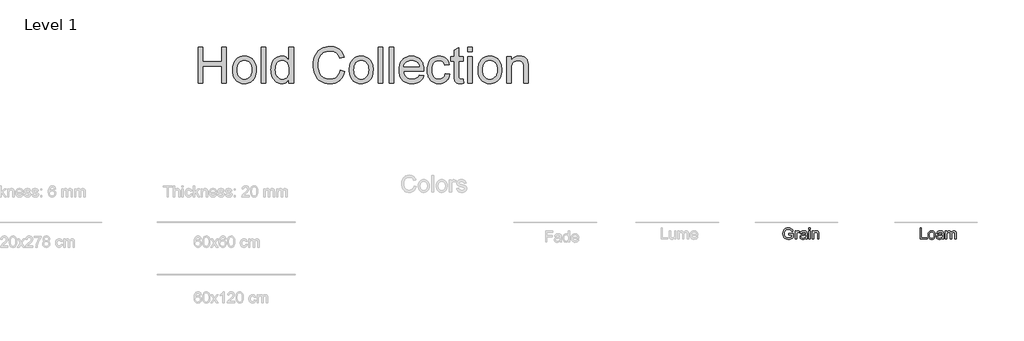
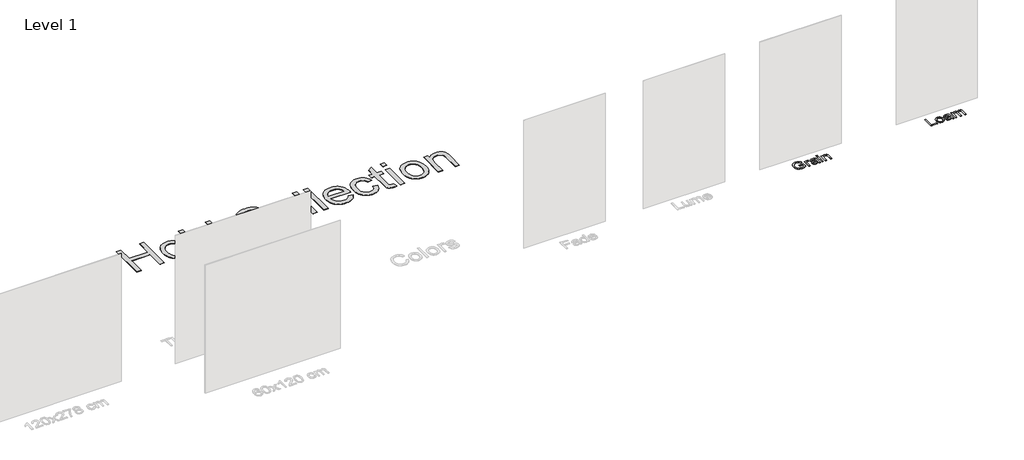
# One storey, part 7 of 7: 3 proxies.
"""IFC4 building model written with IfcOpenShell, lengths in millimetres."""

from ifc_helpers import new_model, si_unit, origin, origin_with_axes, place, context, project, spatial, polyline, outline, extrude, element, save

model = new_model("IFC4")

# Units and contexts
model_context = context("Model", 3, world=origin())
ifc_project = project(units=[si_unit("LENGTHUNIT", "METRE", prefix="MILLI")], contexts=[model_context])

# Site, building, storey
site = spatial("IfcSite", under=ifc_project)
building = spatial("IfcBuilding", under=site)
storey = spatial("IfcBuildingStorey", under=building, Name="Level 1", Elevation=0.0)

# Proxies
placement = place(None, origin())
element("IfcBuildingElementProxy", 1, Name="1000mm Arial", ObjectType="1000mm Arial", at=placement, inside=storey, context=model_context, shape_type="SweptSolid", body=[
    extrude(outline(polyline([(-960.6024091, 15746.8260502), (-960.6024091, 17052.7580821), (-797.3609051, 17052.7580821), (-797.3609051, 16522.2231942), (-103.5845131, 16522.2231942), (-103.5845131, 17052.7580821), (59.6569909, 17052.7580821), (59.6569909, 15746.8260502), (-103.5845131, 15746.8260502), (-103.5845131, 16358.9816902), (-797.3609051, 16358.9816902), (-797.3609051, 15746.8260502), (-960.6024091, 15746.8260502)])), origin_with_axes(), (0.0, 0.0, 1.0), 5.0),
    extrude(outline(polyline([(284.1140589, 16226.3479682), (286.3209677, 16290.597409), (292.9416939, 16350.5525939), (303.9762377, 16406.213523), (319.4245991, 16457.5801962), (339.2867779, 16504.6526136), (363.5627743, 16547.430775), (392.2525882, 16585.9146806), (425.3562196, 16620.1043303), (455.655134, 16644.9880984), (487.5681306, 16666.5540308), (521.0952096, 16684.8021273), (556.2363707, 16699.7323882), (592.9916141, 16711.3448133), (631.3609398, 16719.6394027), (671.3443478, 16724.6161563), (712.9418379, 16726.2750741), (759.0502895, 16724.2549805), (803.0016496, 16718.1946994), (844.7959184, 16708.094231), (884.4330957, 16693.9535752), (921.9131816, 16675.772732), (957.2361761, 16653.5517015), (990.4020792, 16627.2904836), (1021.4108909, 16596.9890783), (1049.4705153, 16563.1257323), (1073.7888564, 16526.178692), (1094.3659142, 16486.1479576), (1111.2016889, 16443.033529), (1124.2961802, 16396.8354062), (1133.6493884, 16347.5535893), (1139.2613132, 16295.1880781), (1141.1319549, 16239.7388728), (1137.8240826, 16152.3592347), (1127.9004658, 16074.8235057), (1111.3611044, 16007.1316858), (1088.2059985, 15949.2837749), (1058.7240887, 15899.3169693), (1023.2043156, 15855.2684653), (981.6466793, 15817.1382629), (934.0511798, 15784.9263622), (882.2710225, 15759.3302059), (828.1594131, 15741.0472372), (771.7163516, 15730.0774559), (712.9418379, 15726.4208622), (666.106053, 15728.4334833), (621.5668481, 15734.4713465), (579.3242232, 15744.5344519), (539.3781783, 15758.6227995), (501.7287134, 15776.7363892), (466.3758285, 15798.8752211), (433.3195235, 15825.0392952), (402.5597986, 15855.2286114), (374.7990784, 15889.2040465), (350.7397875, 15926.7264772), (330.381926, 15967.7959034), (313.7254938, 16012.4123252), (300.770491, 16060.5757426), (291.5169176, 16112.2861556), (285.9647736, 16167.5435641), (284.1140589, 16226.3479682)]), holes=[polyline([(447.3555629, 16226.6667992), (452.078248, 16147.4870976), (466.2463033, 16078.9284557), (476.8723448, 16048.6320321), (489.8597289, 16020.9908735), (505.2084555, 15996.0049799), (522.9185247, 15973.6743511), (563.1310925, 15936.9191077), (608.2058339, 15910.6653624), (658.1427491, 15894.9131152), (712.9418379, 15889.6623662), (767.4619496, 15894.9430057), (817.1995954, 15910.7849241), (862.1547752, 15937.1881214), (902.3274891, 15974.1525977), (920.0375582, 15996.6600781), (935.3862848, 16021.9374032), (948.3736689, 16049.9845733), (958.9997104, 16080.8015881), (973.1677658, 16150.7451525), (977.8904509, 16231.7680962), (973.1378753, 16308.4370033), (958.8801488, 16375.2022205), (935.1172711, 16432.0637478), (919.6714007, 16456.7806277), (901.8492425, 16479.0215852), (861.5270765, 16515.7768286), (816.6017871, 16542.0305739), (767.0733743, 16557.7828211), (712.9418379, 16563.0335702), (658.1427491, 16557.802748), (608.2058339, 16542.1102817), (563.1310925, 16515.9561711), (522.9185247, 16479.3404163), (505.2084555, 16457.0845136), (489.8597289, 16432.1633825), (476.8723448, 16404.577023), (466.2463033, 16374.325435), (452.078248, 16305.826574), (447.3555629, 16226.6667992)])]), origin_with_axes(), (0.0, 0.0, 1.0), 5.0),
    extrude(outline(polyline([(1324.7786469, 15746.8260502), (1324.7786469, 17052.7580821), (1488.0201508, 17052.7580821), (1488.0201508, 15746.8260502), (1324.7786469, 15746.8260502)])), origin_with_axes(), (0.0, 0.0, 1.0), 5.0),
    extrude(outline(polyline([(2324.6328588, 15746.8260502), (2324.6328588, 15900.8214534), (2301.5026616, 15859.9463148), (2275.7919254, 15824.5211947), (2247.5006504, 15794.5460931), (2216.6288364, 15770.02101), (2183.1764835, 15750.9459453), (2147.1435917, 15737.3208991), (2108.530161, 15729.1458714), (2067.3361914, 15726.4208622), (2013.4537418, 15730.3663966), (1961.8031097, 15742.2029998), (1912.384295, 15761.9306718), (1865.1972978, 15789.5494126), (1821.7167116, 15824.2322541), (1783.4171302, 15865.1522283), (1750.2985536, 15912.3093351), (1722.3609818, 15965.7035746), (1700.182296, 16024.3186727), (1684.3403776, 16087.1383555), (1674.8352265, 16154.1626229), (1671.6668428, 16225.391475), (1674.5861398, 16295.3151124), (1683.3440305, 16361.9308775), (1697.9405151, 16425.2387703), (1718.3755935, 16485.2387909), (1744.6393023, 16540.1773684), (1776.7216779, 16588.3009319), (1814.6227205, 16629.6094814), (1858.3424299, 16664.103017), (1906.3364683, 16691.303292), (1957.0604976, 16710.7320599), (2010.514518, 16722.3893206), (2066.6985293, 16726.2750741), (2107.7878824, 16723.4952658), (2146.5657104, 16715.1558408), (2183.0320132, 16701.2567992), (2217.1867908, 16681.7981409), (2248.6514312, 16657.8957747), (2277.0473227, 16630.6656093), (2302.3744653, 16600.1076446), (2324.6328588, 16566.2218808), (2324.6328588, 17052.7580821), (2487.8743628, 17052.7580821), (2487.8743628, 15746.8260502), (2324.6328588, 15746.8260502)]), holes=[polyline([(1834.9083468, 16226.0291371), (1839.5114703, 16146.8693624), (1853.3208407, 16078.3705013), (1876.336458, 16020.5325539), (1891.2966093, 15995.6114228), (1908.5583223, 15973.3555201), (1947.0372461, 15936.7397653), (1988.8240422, 15910.5856547), (2033.9187106, 15894.8931883), (2082.3212513, 15889.6623662), (2130.9529518, 15894.654065), (2175.7786065, 15909.6291615), (2216.7982154, 15934.5876556), (2254.0117785, 15969.5295473), (2270.5635942, 15990.8140116), (2284.9085011, 16014.7338139), (2306.9775887, 16070.4794325), (2320.2190413, 16136.7664031), (2324.6328588, 16213.5947257), (2320.1393335, 16297.825907), (2306.6587577, 16370.0610696), (2284.1911312, 16430.3002135), (2269.587174, 16455.9212784), (2252.7364542, 16478.5433386), (2214.7058865, 16515.5078149), (2172.5105881, 16541.9110123), (2126.1505589, 16557.7529307), (2075.625799, 16563.0335702), (2026.2667651, 16557.9621636), (1981.1720967, 16542.7479438), (1940.3417938, 16517.3909109), (1903.7758563, 16481.8910648), (1887.6350338, 16460.1432991), (1873.6463209, 16435.4712547), (1852.1252242, 16377.3543301), (1839.2125662, 16307.5402909), (1834.9083468, 16226.0291371)])]), origin_with_axes(), (0.0, 0.0, 1.0), 5.0),
    extrude(outline(polyline([(4181.5049667, 16211.0440772), (4344.7464707, 16168.9583769), (4329.9357715, 16116.5978475), (4312.4448987, 16067.4405739), (4292.2738523, 16021.4865562), (4269.4226322, 15978.7357943), (4243.8912385, 15939.1882882), (4215.6796712, 15902.8440379), (4184.7879303, 15869.7030435), (4151.2160158, 15839.7653049), (4115.3275943, 15813.2002011), (4077.4863326, 15790.1771112), (4037.6922306, 15770.6960351), (3995.9452884, 15754.7569729), (3952.2455059, 15742.3599244), (3906.5928831, 15733.5048899), (3858.9874201, 15728.1918691), (3809.4291168, 15726.4208622), (3709.884081, 15731.7812094), (3620.0833196, 15747.8622511), (3578.8370417, 15759.9230324), (3540.0268325, 15774.6639873), (3503.6526918, 15792.0851159), (3469.7146197, 15812.186418), (3408.1802247, 15859.8715888), (3354.4571906, 15917.1615453), (3308.5455176, 15984.0562876), (3270.4452057, 16060.5558157), (3240.5249032, 16143.3522572), (3219.1532585, 16229.13774), (3206.3302717, 16317.9122639), (3202.0559428, 16409.6758291), (3206.8882261, 16508.1348466), (3221.3850759, 16600.0976812), (3245.5464924, 16685.5643329), (3279.3724754, 16764.5348016), (3322.1058013, 16835.7038729), (3372.9892461, 16897.7663319), (3432.0228101, 16950.7221787), (3499.206493, 16994.5714132), (3572.2586602, 17028.9553506), (3648.8976768, 17053.5153059), (3729.1235429, 17068.2512791), (3812.9362585, 17073.1632701), (3860.589048, 17071.5740966), (3906.3039425, 17066.8065758), (3950.0809419, 17058.8607079), (3991.9200462, 17047.7364929), (4031.8212555, 17033.4339307), (4069.7845697, 17015.9530214), (4105.8099889, 16995.2937649), (4139.8975131, 16971.4561612), (4171.7582015, 16944.7341328), (4201.1031136, 16915.421602), (4227.9322493, 16883.5185688), (4252.2456087, 16849.0250332), (4274.0431917, 16811.9409953), (4293.3249984, 16772.2664549), (4310.0910288, 16730.0014122), (4324.3412827, 16685.1458671), (4161.0997787, 16646.2484775), (4135.3940243, 16710.4431192), (4104.5072651, 16765.2920254), (4068.4395012, 16810.7951961), (4027.1907325, 16846.9526313), (3980.5218357, 16874.5016278), (3928.1936876, 16894.1794824), (3870.2062881, 16905.9861952), (3806.5596372, 16909.9217661), (3733.3281276, 16905.557766), (3666.3536775, 16892.4657655), (3605.6362871, 16870.6457646), (3551.1759562, 16840.0977635), (3503.6601644, 16802.1967209), (3463.7763912, 16758.3175959), (3431.5246365, 16708.4603885), (3406.9049004, 16652.6250987), (3388.7016394, 16593.342448), (3375.6993102, 16533.143158), (3367.8979126, 16472.0272288), (3365.2974468, 16409.9946602), (3368.3761592, 16332.0404654), (3377.6122966, 16259.1875676), (3393.0058588, 16191.4359668), (3414.5568459, 16128.785663), (3442.6139794, 16072.4820901), (3477.5259808, 16023.7706818), (3519.2928499, 15982.6514383), (3567.914587, 15949.1243593), (3621.0298493, 15923.1097373), (3676.2772943, 15904.5278645), (3733.6569221, 15893.3787408), (3793.1687326, 15889.6623662), (3864.1385344, 15894.7238093), (3929.429158, 15909.9081387), (3989.0406032, 15935.2153542), (4042.9728701, 15970.6454561), (4067.4904806, 15992.1167354), (4089.9506344, 16016.0390286), (4128.698572, 16071.2366563), (4159.2166828, 16136.2383391), (4181.5049667, 16211.0440772)])), origin_with_axes(), (0.0, 0.0, 1.0), 5.0),
    extrude(outline(polyline([(4507.9879747, 16226.3479682), (4510.1948835, 16290.597409), (4516.8156098, 16350.5525939), (4527.8501536, 16406.213523), (4543.2985149, 16457.5801962), (4563.1606937, 16504.6526136), (4587.4366901, 16547.430775), (4616.126504, 16585.9146806), (4649.2301354, 16620.1043303), (4679.5290498, 16644.9880984), (4711.4420465, 16666.5540308), (4744.9691254, 16684.8021273), (4780.1102865, 16699.7323882), (4816.86553, 16711.3448133), (4855.2348556, 16719.6394027), (4895.2182636, 16724.6161563), (4936.8157538, 16726.2750741), (4982.9242053, 16724.2549805), (5026.8755654, 16718.1946994), (5068.6698342, 16708.094231), (5108.3070115, 16693.9535752), (5145.7870974, 16675.772732), (5181.1100919, 16653.5517015), (5214.275995, 16627.2904836), (5245.2848067, 16596.9890783), (5273.3444311, 16563.1257323), (5297.6627722, 16526.178692), (5318.2398301, 16486.1479576), (5335.0756047, 16443.033529), (5348.1700961, 16396.8354062), (5357.5233042, 16347.5535893), (5363.1352291, 16295.1880781), (5365.0058707, 16239.7388728), (5361.6979984, 16152.3592347), (5351.7743816, 16074.8235057), (5335.2350202, 16007.1316858), (5312.0799143, 15949.2837749), (5282.5980045, 15899.3169693), (5247.0782314, 15855.2684653), (5205.5205951, 15817.1382629), (5157.9250956, 15784.9263622), (5106.1449384, 15759.3302059), (5052.033329, 15741.0472372), (4995.5902674, 15730.0774559), (4936.8157538, 15726.4208622), (4889.9799689, 15728.4334833), (4845.4407639, 15734.4713465), (4803.198139, 15744.5344519), (4763.2520941, 15758.6227995), (4725.6026292, 15776.7363892), (4690.2497443, 15798.8752211), (4657.1934394, 15825.0392952), (4626.4337144, 15855.2286114), (4598.6729942, 15889.2040465), (4574.6137033, 15926.7264772), (4554.2558418, 15967.7959034), (4537.5994096, 16012.4123252), (4524.6444069, 16060.5757426), (4515.3908334, 16112.2861556), (4509.8386894, 16167.5435641), (4507.9879747, 16226.3479682)]), holes=[polyline([(4671.2294787, 16226.6667992), (4675.9521638, 16147.4870976), (4690.1202192, 16078.9284557), (4700.7462607, 16048.6320321), (4713.7336447, 16020.9908735), (4729.0823713, 15996.0049799), (4746.7924405, 15973.6743511), (4787.0050083, 15936.9191077), (4832.0797497, 15910.6653624), (4882.0166649, 15894.9131152), (4936.8157538, 15889.6623662), (4991.3358654, 15894.9430057), (5041.0735112, 15910.7849241), (5086.028691, 15937.1881214), (5126.2014049, 15974.1525977), (5143.9114741, 15996.6600781), (5159.2602007, 16021.9374032), (5172.2475847, 16049.9845733), (5182.8736262, 16080.8015881), (5197.0416816, 16150.7451525), (5201.7643667, 16231.7680962), (5197.0117912, 16308.4370033), (5182.7540646, 16375.2022205), (5158.991187, 16432.0637478), (5143.5453165, 16456.7806277), (5125.7231583, 16479.0215852), (5085.4009924, 16515.7768286), (5040.475703, 16542.0305739), (4990.9472901, 16557.7828211), (4936.8157538, 16563.0335702), (4882.0166649, 16557.802748), (4832.0797497, 16542.1102817), (4787.0050083, 16515.9561711), (4746.7924405, 16479.3404163), (4729.0823713, 16457.0845136), (4713.7336447, 16432.1633825), (4700.7462607, 16404.577023), (4690.1202192, 16374.325435), (4675.9521638, 16305.826574), (4671.2294787, 16226.6667992)])]), origin_with_axes(), (0.0, 0.0, 1.0), 5.0),
    extrude(outline(polyline([(5548.6525627, 15746.8260502), (5548.6525627, 17052.7580821), (5711.8940667, 17052.7580821), (5711.8940667, 15746.8260502), (5548.6525627, 15746.8260502)])), origin_with_axes(), (0.0, 0.0, 1.0), 5.0),
    extrude(outline(polyline([(5956.7563227, 15746.8260502), (5956.7563227, 17052.7580821), (6119.9978266, 17052.7580821), (6119.9978266, 15746.8260502), (5956.7563227, 15746.8260502)])), origin_with_axes(), (0.0, 0.0, 1.0), 5.0),
    extrude(outline(polyline([(7036.3183002, 16032.4986822), (7196.3714936, 16012.0934942), (7171.8314653, 15947.9885237), (7138.7029252, 15891.4956448), (7096.9858733, 15842.6148575), (7046.6803098, 15801.3461619), (6988.3043349, 15768.5663433), (6922.3760493, 15745.1521871), (6848.8954528, 15731.1036934), (6767.8625456, 15726.4208622), (6715.8382833, 15728.4409559), (6666.5739025, 15734.5012369), (6620.069403, 15744.6017054), (6576.3247848, 15758.7423612), (6535.3400481, 15776.9232043), (6497.1151927, 15799.1442349), (6461.6502188, 15825.4054528), (6428.9451262, 15855.706858), (6399.5777963, 15889.6548936), (6374.1261104, 15926.8560023), (6352.5900685, 15967.3101842), (6334.9696705, 16011.0174393), (6321.2649166, 16057.9777676), (6311.4758066, 16108.1911691), (6305.6023406, 16161.6576438), (6303.6445186, 16218.3771916), (6305.6222676, 16277.0271619), (6311.5555144, 16332.2995156), (6321.4442591, 16384.1942528), (6335.2885016, 16432.7113734), (6353.088242, 16477.8508774), (6374.8434803, 16519.6127648), (6400.5542164, 16557.9970357), (6430.2204504, 16593.00369), (6463.0401229, 16624.2391707), (6498.2111745, 16651.3099206), (6535.7336052, 16674.2159397), (6575.6074149, 16692.9572281), (6617.8326038, 16707.5337858), (6662.4091717, 16717.9456126), (6709.3371187, 16724.1927088), (6758.6164448, 16726.2750741), (6806.2841795, 16724.1976905), (6851.7250785, 16717.9655396), (6894.9391418, 16707.5786214), (6935.9263694, 16693.0369359), (6974.6867613, 16674.3404831), (7011.2203175, 16651.4892631), (7045.527038, 16624.4832757), (7077.6069228, 16593.3225211), (7106.6379856, 16558.3955745), (7131.79824, 16520.0910114), (7153.087686, 16478.4088317), (7170.5063237, 16433.3490355), (7184.0541529, 16384.9116227), (7193.7311739, 16333.0965933), (7199.5373864, 16277.9039473), (7201.4727906, 16219.3336848), (7200.5162974, 16175.3349982), (6466.8860226, 16175.3349982), (6476.3413563, 16110.1938267), (6495.1424255, 16053.1429935), (6523.2892303, 16004.1824984), (6560.7817705, 15963.3123416), (6605.5476444, 15931.0904774), (6655.51445, 15908.07486), (6710.6821873, 15894.2654896), (6771.0508562, 15889.6623662), (6816.2053055, 15891.7945489), (6857.9323208, 15898.1910971), (6896.2319022, 15908.8520108), (6931.1040496, 15923.7772899), (6962.5487632, 15943.3654733), (6990.5660428, 15968.0150998), (7015.1558885, 15997.7261694), (7036.3183002, 16032.4986822)]), holes=[polyline([(6466.8860226, 16338.5765022), (7038.2312866, 16338.5765022), (7029.8420443, 16384.7671523), (7016.1522355, 16424.8203046), (6997.1618604, 16458.7359588), (6972.8709188, 16486.5141152), (6928.3541317, 16519.9913767), (6877.6998466, 16543.9037064), (6820.9080636, 16558.2511042), (6757.9787827, 16563.0335702), (6700.579228, 16559.2175609), (6647.9422122, 16547.769533), (6600.0677355, 16528.6894866), (6556.9557978, 16501.9774217), (6520.7784357, 16468.8688085), (6493.7076858, 16430.5991176), (6475.7435481, 16387.1683488), (6466.8860226, 16338.5765022)])]), origin_with_axes(), (0.0, 0.0, 1.0), 5.0),
    extrude(outline(polyline([(7976.8699346, 16093.7142462), (8140.1114386, 16073.3090582), (8122.3565338, 15996.2814662), (8094.5983044, 15928.1213631), (8076.967943, 15897.3666199), (8056.8367504, 15868.8287489), (8034.2047267, 15842.5077502), (8009.0718719, 15818.4036237), (7981.9413412, 15796.845164), (7953.3162898, 15778.1611656), (7923.1967179, 15762.3516284), (7891.5826254, 15749.4165526), (7823.8708785, 15732.1697848), (7750.1810491, 15726.4208622), (7703.2207209, 15728.4260107), (7658.6267169, 15734.4414561), (7616.3990371, 15744.4671985), (7576.5376817, 15758.5032379), (7539.0426506, 15776.5495742), (7503.9139438, 15798.6062074), (7471.1515612, 15824.6731377), (7440.755503, 15854.7503648), (7413.3684129, 15888.573857), (7389.6329348, 15925.8795822), (7369.5490688, 15966.6675404), (7353.1168147, 16010.9377316), (7340.3361727, 16058.6901558), (7331.2071426, 16109.924813), (7325.7297246, 16164.6417032), (7323.9039186, 16222.8408265), (7327.0224849, 16297.8956513), (7336.3781839, 16368.1082293), (7351.9710156, 16433.4785606), (7373.8009799, 16494.0066451), (7402.0175289, 16548.4769395), (7436.7701147, 16595.6739002), (7478.0587373, 16635.5975273), (7525.8833967, 16668.2478208), (7578.0820197, 16693.6347441), (7632.4925332, 16711.7682608), (7689.1149372, 16722.6483708), (7747.9492317, 16726.2750741), (7820.3737002, 16721.2933388), (7885.8835201, 16706.3481327), (7944.4786913, 16681.439456), (7996.1592139, 16646.5673085), (8040.0483023, 16602.528768), (8075.2691712, 16550.1209121), (8101.8218207, 16489.3437408), (8119.7062506, 16420.1972542), (7956.4647466, 16399.7920662), (7943.7214675, 16437.9222685), (7926.8533116, 16471.0109547), (7905.8602789, 16499.0581248), (7880.7423692, 16522.0637786), (7852.1372448, 16539.9880624), (7820.6825678, 16552.7911223), (7786.3783382, 16560.4729582), (7749.224556, 16563.0335702), (7693.7579146, 16557.992054), (7643.7313282, 16542.8675055), (7599.1447968, 16517.6599246), (7559.9983204, 16482.3693113), (7542.9234225, 16460.7386165), (7528.1251776, 16436.1786612), (7515.6035858, 16408.6894455), (7505.358647, 16378.2709694), (7491.6987287, 16308.6462362), (7487.1454226, 16227.3044614), (7491.599094, 16144.7371796), (7504.9601082, 16074.3054052), (7527.2284652, 16016.0091382), (7541.7028973, 15991.4118199), (7558.4041651, 15969.8483784), (7596.7734907, 15934.7669981), (7640.6227253, 15909.7088692), (7689.9518687, 15894.6739919), (7744.7609211, 15889.6623662), (7788.9289867, 15892.790896), (7829.2910065, 15902.1764854), (7865.8469805, 15917.8191344), (7898.5969087, 15939.718843), (7926.6241518, 15968.1147345), (7949.0120705, 16003.2459322), (7965.7606647, 16045.1124361), (7976.8699346, 16093.7142462)])), origin_with_axes(), (0.0, 0.0, 1.0), 5.0),
    extrude(outline(polyline([(8629.8359505, 15882.9669139), (8650.2411385, 15742.0435843), (8585.5981406, 15730.3265427), (8528.1288416, 15726.4208622), (8486.4616071, 15728.1146522), (8449.776108, 15733.1960223), (8418.0723442, 15741.6649724), (8391.3503158, 15753.5215025), (8368.9125798, 15768.1279506), (8350.0616932, 15784.8466544), (8334.7976561, 15803.677614), (8323.1204684, 15824.6208294), (8314.4721759, 15852.6978899), (8308.294824, 15892.9303846), (8303.3529426, 16009.8616767), (8303.3529426, 16542.6283822), (8180.9218146, 16542.6283822), (8180.9218146, 16705.8698861), (8303.3529426, 16705.8698861), (8303.3529426, 16938.9353928), (8466.5944465, 17034.9035426), (8466.5944465, 16705.8698861), (8629.8359505, 16705.8698861), (8629.8359505, 16542.6283822), (8466.5944465, 16542.6283822), (8466.5944465, 16014.6441427), (8468.7465562, 15960.9211086), (8475.2028852, 15930.4727422), (8486.4815341, 15913.6145498), (8503.1006032, 15900.6620378), (8526.6542479, 15892.4122841), (8558.7366236, 15889.6623662), (8629.8359505, 15882.9669139)])), origin_with_axes(), (0.0, 0.0, 1.0), 5.0),
    extrude(outline(polyline([(8793.0774545, 16889.5165781), (8793.0774545, 17052.7580821), (8956.3189585, 17052.7580821), (8956.3189585, 16889.5165781), (8793.0774545, 16889.5165781)])), origin_with_axes(), (0.0, 0.0, 1.0), 5.0),
    extrude(outline(polyline([(8793.0774545, 15746.8260502), (8793.0774545, 16705.8698861), (8956.3189585, 16705.8698861), (8956.3189585, 15746.8260502), (8793.0774545, 15746.8260502)])), origin_with_axes(), (0.0, 0.0, 1.0), 5.0),
    extrude(outline(polyline([(9160.3708385, 16226.3479682), (9162.5777473, 16290.597409), (9169.1984736, 16350.5525939), (9180.2330174, 16406.213523), (9195.6813787, 16457.5801962), (9215.5435575, 16504.6526136), (9239.8195539, 16547.430775), (9268.5093678, 16585.9146806), (9301.6129992, 16620.1043303), (9331.9119136, 16644.9880984), (9363.8249103, 16666.5540308), (9397.3519892, 16684.8021273), (9432.4931504, 16699.7323882), (9469.2483938, 16711.3448133), (9507.6177195, 16719.6394027), (9547.6011274, 16724.6161563), (9589.1986176, 16726.2750741), (9635.3070691, 16724.2549805), (9679.2584292, 16718.1946994), (9721.052698, 16708.094231), (9760.6898753, 16693.9535752), (9798.1699612, 16675.772732), (9833.4929557, 16653.5517015), (9866.6588588, 16627.2904836), (9897.6676705, 16596.9890783), (9925.7272949, 16563.1257323), (9950.045636, 16526.178692), (9970.6226939, 16486.1479576), (9987.4584685, 16443.033529), (10000.5529599, 16396.8354062), (10009.906168, 16347.5535893), (10015.5180929, 16295.1880781), (10017.3887345, 16239.7388728), (10014.0808622, 16152.3592347), (10004.1572454, 16074.8235057), (9987.617884, 16007.1316858), (9964.4627781, 15949.2837749), (9934.9808683, 15899.3169693), (9899.4610952, 15855.2684653), (9857.9034589, 15817.1382629), (9810.3079594, 15784.9263622), (9758.5278022, 15759.3302059), (9704.4161928, 15741.0472372), (9647.9731312, 15730.0774559), (9589.1986176, 15726.4208622), (9542.3628327, 15728.4334833), (9497.8236278, 15734.4713465), (9455.5810028, 15744.5344519), (9415.6349579, 15758.6227995), (9377.985493, 15776.7363892), (9342.6326081, 15798.8752211), (9309.5763032, 15825.0392952), (9278.8165782, 15855.2286114), (9251.055858, 15889.2040465), (9226.9965671, 15926.7264772), (9206.6387056, 15967.7959034), (9189.9822734, 16012.4123252), (9177.0272707, 16060.5757426), (9167.7736973, 16112.2861556), (9162.2215532, 16167.5435641), (9160.3708385, 16226.3479682)]), holes=[polyline([(9323.6123425, 16226.6667992), (9328.3350276, 16147.4870976), (9342.503083, 16078.9284557), (9353.1291245, 16048.6320321), (9366.1165085, 16020.9908735), (9381.4652351, 15996.0049799), (9399.1753043, 15973.6743511), (9439.3878721, 15936.9191077), (9484.4626135, 15910.6653624), (9534.3995287, 15894.9131152), (9589.1986176, 15889.6623662), (9643.7187293, 15894.9430057), (9693.456375, 15910.7849241), (9738.4115548, 15937.1881214), (9778.5842687, 15974.1525977), (9796.2943379, 15996.6600781), (9811.6430645, 16021.9374032), (9824.6304485, 16049.9845733), (9835.25649, 16080.8015881), (9849.4245454, 16150.7451525), (9854.1472305, 16231.7680962), (9849.394655, 16308.4370033), (9835.1369284, 16375.2022205), (9811.3740508, 16432.0637478), (9795.9281803, 16456.7806277), (9778.1060221, 16479.0215852), (9737.7838562, 16515.7768286), (9692.8585668, 16542.0305739), (9643.3301539, 16557.7828211), (9589.1986176, 16563.0335702), (9534.3995287, 16557.802748), (9484.4626135, 16542.1102817), (9439.3878721, 16515.9561711), (9399.1753043, 16479.3404163), (9381.4652351, 16457.0845136), (9366.1165085, 16432.1633825), (9353.1291245, 16404.577023), (9342.503083, 16374.325435), (9328.3350276, 16305.826574), (9323.6123425, 16226.6667992)])]), origin_with_axes(), (0.0, 0.0, 1.0), 5.0),
    extrude(outline(polyline([(10201.0354265, 15746.8260502), (10201.0354265, 16705.8698861), (10364.2769305, 16705.8698861), (10364.2769305, 16571.9608399), (10391.2081918, 16608.1282386), (10420.9890057, 16639.4733174), (10453.6193723, 16665.9960764), (10489.0992914, 16687.6965156), (10527.4287632, 16704.574635), (10568.6077876, 16716.6304345), (10612.6363647, 16723.8639142), (10659.5144943, 16726.2750741), (10700.593884, 16724.3321974), (10739.9794837, 16718.503567), (10777.6712934, 16708.7891831), (10813.669313, 16695.1890456), (10846.6085472, 16678.4304878), (10875.1240003, 16659.2408433), (10899.2156725, 16637.6201118), (10918.8835637, 16613.5682936), (10935.0343497, 16587.1152788), (10948.5747064, 16558.2909581), (10959.5046337, 16527.0953313), (10967.8241318, 16493.5283985), (10974.2804608, 16431.5954646), (10976.4325704, 16335.7070226), (10976.4325704, 15746.8260502), (10813.1910665, 15746.8260502), (10813.1910665, 16313.7076793), (10808.4883083, 16398.1182031), (10802.6098606, 16431.1769989), (10794.3800338, 16458.1381506), (10783.1711292, 16480.8449003), (10768.3554483, 16501.1404902), (10749.932991, 16519.0249201), (10727.9037572, 16534.4981901), (10703.0249709, 16546.9824189), (10676.0538557, 16555.8997251), (10646.9904117, 16561.2501089), (10615.8346388, 16563.0335702), (10566.266372, 16559.0282549), (10520.2251739, 16547.0123093), (10477.7110444, 16526.9857332), (10438.7239836, 16498.9485266), (10421.2754555, 16481.1288592), (10406.1533978, 16459.712379), (10393.3578106, 16434.6990858), (10382.8886937, 16406.0889796), (10368.9298713, 16338.0783286), (10364.2769305, 16255.6804259), (10364.2769305, 15746.8260502), (10201.0354265, 15746.8260502)])), origin_with_axes(), (0.0, 0.0, 1.0), 5.0),
])
element("IfcBuildingElementProxy", 2, Name="400mm Arial", ObjectType="400mm Arial", at=placement, inside=storey, context=model_context, shape_type="SweptSolid", body=[
    extrude(outline(polyline([(20393.3023264, 10252.5888668), (20393.3023264, 10302.8170219), (20556.5438304, 10302.8170219), (20556.5438304, 10152.623066), (20516.8738885, 10125.0319164), (20475.9531479, 10105.239865), (20433.8797104, 10093.3204884), (20390.7516779, 10089.3473628), (20361.9005324, 10090.9261897), (20334.4044189, 10095.6626704), (20308.2633375, 10103.5568049), (20283.4772881, 10114.6085932), (20260.846414, 10128.6524883), (20241.1708586, 10145.5229435), (20224.4506219, 10165.2199586), (20210.685704, 10187.7435338), (20199.9343526, 10212.3732334), (20192.254816, 10238.3886218), (20187.647094, 10265.7896991), (20186.1111867, 10294.5764652), (20192.2302905, 10351.1689788), (20199.8791703, 10377.9845106), (20210.5876021, 10403.8128923), (20224.1655134, 10427.5198212), (20240.4228319, 10447.9709945), (20259.3595576, 10465.166412), (20280.9756905, 10479.106074), (20304.8021811, 10489.8788851), (20330.3699797, 10497.5737501), (20357.6790865, 10502.1906692), (20386.7295014, 10503.7296422), (20428.1039631, 10500.1611868), (20465.3090955, 10489.4558208), (20496.6403788, 10472.3860962), (20520.393293, 10449.7245653), (20537.9657896, 10420.3798448), (20550.7558203, 10383.2605515), (20504.4517398, 10370.2130034), (20494.1142558, 10396.6882443), (20481.5449543, 10416.6642367), (20464.9166881, 10431.722873), (20442.40231, 10443.4460459), (20415.5591871, 10450.9876268), (20385.9446865, 10453.5014871), (20351.2779398, 10450.7914231), (20321.6389137, 10442.661231), (20297.1379728, 10430.1287177), (20277.8854817, 10414.21169), (20263.1088883, 10395.7317511), (20252.0356402, 10375.5105041), (20240.2634164, 10337.5941332), (20236.3393418, 10296.6366044), (20241.060494, 10248.6034785), (20255.2239508, 10209.0806895), (20278.4005165, 10178.3502802), (20310.1609955, 10156.6942934), (20347.3293397, 10143.8552118), (20386.7295014, 10139.5755179), (20421.5188754, 10142.8006167), (20455.4498581, 10152.4759132), (20484.9172059, 10165.8055041), (20506.3156753, 10179.9934864), (20506.3156753, 10252.5888668), (20393.3023264, 10252.5888668)])), origin_with_axes(), (0.0, 0.0, 1.0), 5.0),
    extrude(outline(polyline([(20631.886063, 10095.6258822), (20631.886063, 10390.7162933), (20675.8356987, 10390.7162933), (20675.8356987, 10347.0609632), (20692.0715574, 10372.3712444), (20707.0320918, 10387.282728), (20722.0416773, 10394.5667915), (20738.4246888, 10396.9948127), (20763.4406644, 10393.119789), (20788.8490476, 10381.4947179), (20772.0736286, 10336.4659617), (20754.4152928, 10344.1914836), (20736.7569571, 10346.7666576), (20721.7596344, 10344.2895855), (20708.356467, 10336.8583692), (20697.5284736, 10325.0370944), (20690.2566729, 10309.3898469), (20684.1498317, 10281.3327134), (20682.114218, 10250.7249314), (20682.114218, 10095.6258822), (20631.886063, 10095.6258822)])), origin_with_axes(), (0.0, 0.0, 1.0), 5.0),
    extrude(outline(polyline([(21008.597226, 10133.2969985), (20984.5990572, 10112.7201322), (20959.8896499, 10099.2556512), (20933.9049183, 10091.8244349), (20906.0807767, 10089.3473628), (20883.7166171, 10090.8372849), (20864.1054411, 10095.3070511), (20847.2472486, 10102.7566615), (20833.1420398, 10113.1861161), (20822.0044124, 10125.9332272), (20814.0489642, 10140.3358074), (20809.2756954, 10156.3938564), (20807.6846057, 10174.1073745), (20810.0881014, 10194.9294954), (20817.2985885, 10213.83863), (20828.4208875, 10230.0254378), (20842.5598189, 10242.6805784), (20859.1758223, 10252.2455103), (20877.7293376, 10259.1616918), (20921.188464, 10266.7155354), (20972.5447905, 10274.6617865), (21008.3029204, 10283.9814637), (21008.597226, 10295.1650764), (21005.1391353, 10317.5813526), (20994.764863, 10332.2475815), (20971.5637718, 10343.1368886), (20939.2392072, 10346.7666576), (20909.3181383, 10344.3508991), (20888.4224409, 10337.1036238), (20874.173145, 10323.7004565), (20864.1912802, 10302.8170219), (20813.9631251, 10309.0955413), (20822.6819284, 10336.5640636), (20835.6926883, 10358.146474), (20854.2094154, 10374.6521128), (20879.4461203, 10386.8903205), (20910.3114196, 10394.4686896), (20945.7139303, 10396.9948127), (20979.6694385, 10394.7629952), (21006.5861378, 10388.0675429), (21026.8809612, 10377.999839), (21040.9708416, 10365.6512667), (21050.3150443, 10350.3841639), (21056.3728345, 10331.5608684), (21058.8253811, 10287.6112328), (21058.8253811, 10225.1203445), (21061.3760296, 10137.8587352), (21071.3824199, 10095.6258822), (21021.1542648, 10095.6258822), (21013.1099118, 10113.0880142), (21008.597226, 10133.2969985)]), holes=[polyline([(21008.597226, 10233.7533087), (20974.8501843, 10225.3901246), (20927.5650852, 10218.3513158), (20884.3512135, 10210.208861), (20873.1062872, 10204.6415801), (20864.7798914, 10196.9651091), (20859.6295434, 10187.7680593), (20857.9127608, 10177.6390417), (20861.6528944, 10162.7030327), (20872.8732953, 10150.464825), (20891.3287087, 10142.2978447), (20916.77388, 10139.5755179), (20943.751893, 10142.5798875), (20967.5906463, 10151.5929964), (20986.9167138, 10164.8735364), (21000.3566693, 10180.6801995), (21006.3163577, 10196.9651091), (21008.3029204, 10219.5285382), (21008.597226, 10233.7533087)])]), origin_with_axes(), (0.0, 0.0, 1.0), 5.0),
    extrude(outline(polyline([(21127.8890943, 10447.2229677), (21127.8890943, 10497.4511228), (21178.1172494, 10497.4511228), (21178.1172494, 10447.2229677), (21127.8890943, 10447.2229677)])), origin_with_axes(), (0.0, 0.0, 1.0), 5.0),
    extrude(outline(polyline([(21127.8890943, 10095.6258822), (21127.8890943, 10390.7162933), (21178.1172494, 10390.7162933), (21178.1172494, 10095.6258822), (21127.8890943, 10095.6258822)])), origin_with_axes(), (0.0, 0.0, 1.0), 5.0),
    extrude(outline(polyline([(21253.459482, 10095.6258822), (21253.459482, 10390.7162933), (21303.6876371, 10390.7162933), (21303.6876371, 10349.5135098), (21321.1375064, 10370.2865798), (21342.0945174, 10385.1244869), (21366.5586701, 10394.0272312), (21394.5299644, 10396.9948127), (21419.2884227, 10394.6035797), (21441.9622163, 10387.4298808), (21460.8713509, 10376.3688955), (21474.3358319, 10362.3158032), (21483.4715681, 10345.3073923), (21489.3944683, 10325.3804509), (21492.0432186, 10276.8200276), (21492.0432186, 10095.6258822), (21441.8150635, 10095.6258822), (21441.8150635, 10270.0509988), (21440.368061, 10296.0234677), (21436.0270535, 10314.4911439), (21428.0194887, 10327.722633), (21415.5728146, 10337.9865406), (21399.6189987, 10344.5716283), (21381.0900089, 10346.7666576), (21351.671712, 10341.8370388), (21326.5944227, 10327.0481826), (21316.572704, 10314.9755218), (21309.4143335, 10298.4760143), (21305.1193112, 10277.5496602), (21303.6876371, 10252.1964594), (21303.6876371, 10095.6258822), (21253.459482, 10095.6258822)])), origin_with_axes(), (0.0, 0.0, 1.0), 5.0),
])
element("IfcBuildingElementProxy", 3, Name="400mm Arial", ObjectType="400mm Arial", at=placement, inside=storey, context=model_context, shape_type="SweptSolid", body=[
    extrude(outline(polyline([(25148.6799432, 10095.6258822), (25148.6799432, 10497.4511228), (25198.9080983, 10497.4511228), (25198.9080983, 10145.8540373), (25399.8207186, 10145.8540373), (25399.8207186, 10095.6258822), (25148.6799432, 10095.6258822)])), origin_with_axes(), (0.0, 0.0, 1.0), 5.0),
    extrude(outline(polyline([(25437.4918349, 10243.1710877), (25440.2080303, 10281.3878957), (25448.3566164, 10314.3194656), (25461.9375934, 10341.9657975), (25480.9509612, 10364.3268915), (25500.0930877, 10378.619107), (25521.221777, 10388.8278324), (25544.337029, 10394.9530676), (25569.4388438, 10396.9948127), (25597.1495551, 10394.5085435), (25622.2053846, 10387.049736), (25644.6063325, 10374.6183903), (25664.3523985, 10357.2145062), (25680.4686956, 10335.4266951), (25691.9803364, 10309.843568), (25698.8873208, 10280.465125), (25701.189649, 10247.2913661), (25697.1184216, 10196.5481762), (25684.9047393, 10157.9205667), (25664.9042215, 10128.9927792), (25637.4724874, 10107.3490551), (25604.8904054, 10093.8477859), (25569.4388438, 10089.3473628), (25541.3234623, 10091.8244349), (25516.0346408, 10099.2556512), (25493.5723793, 10111.6410117), (25473.9366778, 10128.9805164), (25457.992059, 10150.9798597), (25446.6030456, 10177.3447361), (25439.7696375, 10208.0751454), (25437.4918349, 10243.1710877)]), holes=[polyline([(25487.7199899, 10243.2691896), (25489.1731238, 10218.9062045), (25493.5325255, 10197.8112377), (25500.7981949, 10179.9842894), (25510.970132, 10165.4253594), (25523.3432298, 10154.1160538), (25537.212381, 10146.0379783), (25552.5775857, 10141.191133), (25569.4388438, 10139.5755179), (25586.2142628, 10141.20033), (25601.5181538, 10146.0747665), (25615.3505168, 10154.1988272), (25627.7113518, 10165.5725122), (25637.883289, 10180.2755293), (25645.1489584, 10198.3875862), (25649.50836, 10219.9086829), (25650.9614939, 10244.8388194), (25649.499163, 10268.4292524), (25645.1121702, 10288.9723961), (25637.8005155, 10306.4682507), (25627.564199, 10320.916816), (25615.1573787, 10332.2261217), (25601.3342128, 10340.3041972), (25586.0947011, 10345.1510425), (25569.4388438, 10346.7666576), (25552.5775857, 10345.1571738), (25537.212381, 10340.3287227), (25523.3432298, 10332.281304), (25510.970132, 10321.0149179), (25500.7981949, 10306.4989075), (25493.5325255, 10288.702616), (25489.1731238, 10267.6260434), (25487.7199899, 10243.2691896)])]), origin_with_axes(), (0.0, 0.0, 1.0), 5.0),
    extrude(outline(polyline([(25946.051905, 10133.2969985), (25922.0537362, 10112.7201322), (25897.3443288, 10099.2556512), (25871.3595972, 10091.8244349), (25843.5354557, 10089.3473628), (25821.171296, 10090.8372849), (25801.56012, 10095.3070511), (25784.7019276, 10102.7566615), (25770.5967188, 10113.1861161), (25759.4590914, 10125.9332272), (25751.5036432, 10140.3358074), (25746.7303743, 10156.3938564), (25745.1392847, 10174.1073745), (25747.5427804, 10194.9294954), (25754.7532675, 10213.83863), (25765.8755665, 10230.0254378), (25780.0144978, 10242.6805784), (25796.6305013, 10252.2455103), (25815.1840166, 10259.1616918), (25858.6431429, 10266.7155354), (25909.9994695, 10274.6617865), (25945.7575994, 10283.9814637), (25946.051905, 10295.1650764), (25942.5938142, 10317.5813526), (25932.219542, 10332.2475815), (25909.0184508, 10343.1368886), (25876.6938862, 10346.7666576), (25846.7728172, 10344.3508991), (25825.8771199, 10337.1036238), (25811.627824, 10323.7004565), (25801.6459591, 10302.8170219), (25751.4178041, 10309.0955413), (25760.1366074, 10336.5640636), (25773.1473673, 10358.146474), (25791.6640943, 10374.6521128), (25816.9007992, 10386.8903205), (25847.7660986, 10394.4686896), (25883.1686093, 10396.9948127), (25917.1241174, 10394.7629952), (25944.0408167, 10388.0675429), (25964.3356401, 10377.999839), (25978.4255206, 10365.6512667), (25987.7697232, 10350.3841639), (25993.8275134, 10331.5608684), (25996.2800601, 10287.6112328), (25996.2800601, 10225.1203445), (25998.8307086, 10137.8587352), (26008.8370988, 10095.6258822), (25958.6089438, 10095.6258822), (25950.5645908, 10113.0880142), (25946.051905, 10133.2969985)]), holes=[polyline([(25946.051905, 10233.7533087), (25912.3048633, 10225.3901246), (25865.0197642, 10218.3513158), (25821.8058925, 10210.208861), (25810.5609662, 10204.6415801), (25802.2345703, 10196.9651091), (25797.0842224, 10187.7680593), (25795.3674398, 10177.6390417), (25799.1075734, 10162.7030327), (25810.3279742, 10150.464825), (25828.7833877, 10142.2978447), (25854.228559, 10139.5755179), (25881.206572, 10142.5798875), (25905.0453253, 10151.5929964), (25924.3713927, 10164.8735364), (25937.8113483, 10180.6801995), (25943.7710366, 10196.9651091), (25945.7575994, 10219.5285382), (25946.051905, 10233.7533087)])]), origin_with_axes(), (0.0, 0.0, 1.0), 5.0),
    extrude(outline(polyline([(26065.3437733, 10095.6258822), (26065.3437733, 10390.7162933), (26115.5719284, 10390.7162933), (26115.5719284, 10342.1558699), (26130.6796156, 10364.4617815), (26150.103785, 10381.9361763), (26173.1822488, 10393.2301536), (26199.2528195, 10396.9948127), (26227.1873257, 10393.1565772), (26249.5790765, 10381.6418707), (26266.3054445, 10363.2109828), (26277.2438025, 10338.6242028), (26295.5520631, 10364.1613446), (26316.4354977, 10382.4021602), (26339.8941063, 10393.3466495), (26365.9278888, 10396.9948127), (26386.0357055, 10395.4772994), (26403.6848443, 10390.9247597), (26418.875305, 10383.3371936), (26431.6070877, 10372.714601), (26441.6717259, 10358.9343546), (26448.8607533, 10341.873827), (26453.1741697, 10321.5330184), (26454.6119751, 10297.9119286), (26454.6119751, 10095.6258822), (26404.38382, 10095.6258822), (26404.38382, 10276.3295182), (26403.2188604, 10301.3822821), (26399.7239814, 10318.2680657), (26393.1756819, 10329.8318231), (26382.8504606, 10338.9185083), (26369.5699206, 10344.8046203), (26354.155665, 10346.7666576), (26326.9446601, 10341.738937), (26304.7613758, 10326.6557752), (26296.1560027, 10315.0858864), (26290.0093077, 10300.4871026), (26285.0919517, 10262.2028496), (26285.0919517, 10095.6258822), (26234.8637967, 10095.6258822), (26234.8637967, 10281.9213246), (26231.9575289, 10310.3218146), (26223.2387256, 10330.5798498), (26207.8980464, 10342.7199556), (26185.1261509, 10346.7666576), (26165.775558, 10344.0688563), (26147.9455439, 10335.9754524), (26133.2302641, 10322.6826496), (26123.2238739, 10304.3866517), (26117.4849147, 10279.0027941), (26115.5719284, 10244.446412), (26115.5719284, 10095.6258822), (26065.3437733, 10095.6258822)])), origin_with_axes(), (0.0, 0.0, 1.0), 5.0),
])

save(model, "model.ifc")
